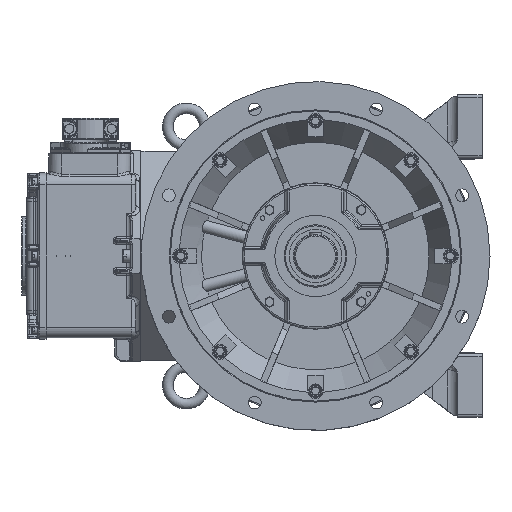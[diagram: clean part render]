
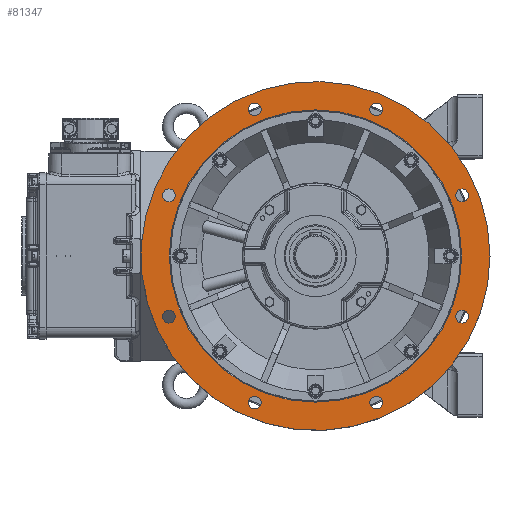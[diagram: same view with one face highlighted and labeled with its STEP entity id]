
A CAD part, left-side view. The second image highlights one B-rep face of the part: STEP entity #81347.
In plain terms, the highlighted planar face has unit normal (-1, 0, 0).
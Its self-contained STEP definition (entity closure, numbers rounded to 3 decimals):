
#20008=ORIENTED_EDGE('',*,*,#32808,.F.);
#20009=ORIENTED_EDGE('',*,*,#32810,.F.);
#20010=ORIENTED_EDGE('',*,*,#32812,.F.);
#20011=ORIENTED_EDGE('',*,*,#32814,.F.);
#20012=ORIENTED_EDGE('',*,*,#32816,.F.);
#20013=ORIENTED_EDGE('',*,*,#32818,.F.);
#20014=ORIENTED_EDGE('',*,*,#32820,.F.);
#20015=ORIENTED_EDGE('',*,*,#32822,.F.);
#20016=ORIENTED_EDGE('',*,*,#32842,.F.);
#20017=ORIENTED_EDGE('',*,*,#32843,.T.);
#32808=EDGE_CURVE('',#39847,#39847,#43571,.T.);
#32810=EDGE_CURVE('',#39849,#39849,#43573,.T.);
#32812=EDGE_CURVE('',#39851,#39851,#43575,.T.);
#32814=EDGE_CURVE('',#39853,#39853,#43577,.T.);
#32816=EDGE_CURVE('',#39855,#39855,#43579,.T.);
#32818=EDGE_CURVE('',#39857,#39857,#43581,.T.);
#32820=EDGE_CURVE('',#39859,#39859,#43583,.T.);
#32822=EDGE_CURVE('',#39861,#39861,#43585,.T.);
#32842=EDGE_CURVE('',#39881,#39881,#43605,.T.);
#32843=EDGE_CURVE('',#39882,#39882,#43606,.F.);
#39847=VERTEX_POINT('',#119598);
#39849=VERTEX_POINT('',#119603);
#39851=VERTEX_POINT('',#119608);
#39853=VERTEX_POINT('',#119613);
#39855=VERTEX_POINT('',#119618);
#39857=VERTEX_POINT('',#119623);
#39859=VERTEX_POINT('',#119628);
#39861=VERTEX_POINT('',#119633);
#39881=VERTEX_POINT('',#119691);
#39882=VERTEX_POINT('',#119693);
#43571=CIRCLE('',#86150,12.);
#43573=CIRCLE('',#86153,12.);
#43575=CIRCLE('',#86156,12.);
#43577=CIRCLE('',#86159,12.);
#43579=CIRCLE('',#86162,12.);
#43581=CIRCLE('',#86165,12.);
#43583=CIRCLE('',#86168,12.);
#43585=CIRCLE('',#86171,12.);
#43605=CIRCLE('',#86209,276.402);
#43606=CIRCLE('',#86210,330.);
#47169=EDGE_LOOP('',(#20008));
#47170=EDGE_LOOP('',(#20009));
#47171=EDGE_LOOP('',(#20010));
#47172=EDGE_LOOP('',(#20011));
#47173=EDGE_LOOP('',(#20012));
#47174=EDGE_LOOP('',(#20013));
#47175=EDGE_LOOP('',(#20014));
#47176=EDGE_LOOP('',(#20015));
#47177=EDGE_LOOP('',(#20016));
#47178=EDGE_LOOP('',(#20017));
#51208=FACE_BOUND('',#47169,.T.);
#51209=FACE_BOUND('',#47170,.T.);
#51210=FACE_BOUND('',#47171,.T.);
#51211=FACE_BOUND('',#47172,.T.);
#51212=FACE_BOUND('',#47173,.T.);
#51213=FACE_BOUND('',#47174,.T.);
#51214=FACE_BOUND('',#47175,.T.);
#51215=FACE_BOUND('',#47176,.T.);
#51216=FACE_BOUND('',#47177,.T.);
#51217=FACE_BOUND('',#47178,.T.);
#54349=PLANE('',#86208);
#81347=ADVANCED_FACE('',(#51208,#51209,#51210,#51211,#51212,#51213,#51214,
#51215,#51216,#51217),#54349,.F.);
#86150=AXIS2_PLACEMENT_3D('',#119597,#97871,#97872);
#86153=AXIS2_PLACEMENT_3D('',#119602,#97877,#97878);
#86156=AXIS2_PLACEMENT_3D('',#119607,#97883,#97884);
#86159=AXIS2_PLACEMENT_3D('',#119612,#97889,#97890);
#86162=AXIS2_PLACEMENT_3D('',#119617,#97895,#97896);
#86165=AXIS2_PLACEMENT_3D('',#119622,#97901,#97902);
#86168=AXIS2_PLACEMENT_3D('',#119627,#97907,#97908);
#86171=AXIS2_PLACEMENT_3D('',#119632,#97913,#97914);
#86208=AXIS2_PLACEMENT_3D('',#119689,#97987,#97988);
#86209=AXIS2_PLACEMENT_3D('',#119690,#97989,#97990);
#86210=AXIS2_PLACEMENT_3D('',#119692,#97991,#97992);
#97871=DIRECTION('',(-1.,0.,0.));
#97872=DIRECTION('',(0.,0.,1.));
#97877=DIRECTION('',(-1.,0.,0.));
#97878=DIRECTION('',(0.,0.,1.));
#97883=DIRECTION('',(-1.,0.,0.));
#97884=DIRECTION('',(0.,0.,1.));
#97889=DIRECTION('',(-1.,0.,0.));
#97890=DIRECTION('',(0.,0.,1.));
#97895=DIRECTION('',(-1.,0.,0.));
#97896=DIRECTION('',(0.,0.,1.));
#97901=DIRECTION('',(-1.,0.,0.));
#97902=DIRECTION('',(0.,0.,1.));
#97907=DIRECTION('',(-1.,0.,0.));
#97908=DIRECTION('',(0.,0.,1.));
#97913=DIRECTION('',(-1.,0.,0.));
#97914=DIRECTION('',(0.,0.,1.));
#97987=DIRECTION('',(1.,0.,0.));
#97988=DIRECTION('',(0.,-1.,0.));
#97989=DIRECTION('',(-1.,0.,0.));
#97990=DIRECTION('',(0.,1.,0.));
#97991=DIRECTION('',(1.,0.,0.));
#97992=DIRECTION('',(0.,-1.,0.));
#119597=CARTESIAN_POINT('',(-89.5,114.805,277.164));
#119598=CARTESIAN_POINT('',(-89.5,114.805,289.164));
#119602=CARTESIAN_POINT('',(-89.5,-114.805,277.164));
#119603=CARTESIAN_POINT('',(-89.5,-114.805,289.164));
#119607=CARTESIAN_POINT('',(-89.5,-277.164,114.805));
#119608=CARTESIAN_POINT('',(-89.5,-277.164,126.805));
#119612=CARTESIAN_POINT('',(-89.5,-277.164,-114.805));
#119613=CARTESIAN_POINT('',(-89.5,-277.164,-102.805));
#119617=CARTESIAN_POINT('',(-89.5,-114.805,-277.164));
#119618=CARTESIAN_POINT('',(-89.5,-114.805,-265.164));
#119622=CARTESIAN_POINT('',(-89.5,114.805,-277.164));
#119623=CARTESIAN_POINT('',(-89.5,114.805,-265.164));
#119627=CARTESIAN_POINT('',(-89.5,277.164,-114.805));
#119628=CARTESIAN_POINT('',(-89.5,277.164,-102.805));
#119632=CARTESIAN_POINT('',(-89.5,277.164,114.805));
#119633=CARTESIAN_POINT('',(-89.5,277.164,126.805));
#119689=CARTESIAN_POINT('',(-89.5,276.402,0.));
#119690=CARTESIAN_POINT('',(-89.5,0.,0.));
#119691=CARTESIAN_POINT('',(-89.5,276.402,0.));
#119692=CARTESIAN_POINT('',(-89.5,0.,0.));
#119693=CARTESIAN_POINT('',(-89.5,-330.,0.));
